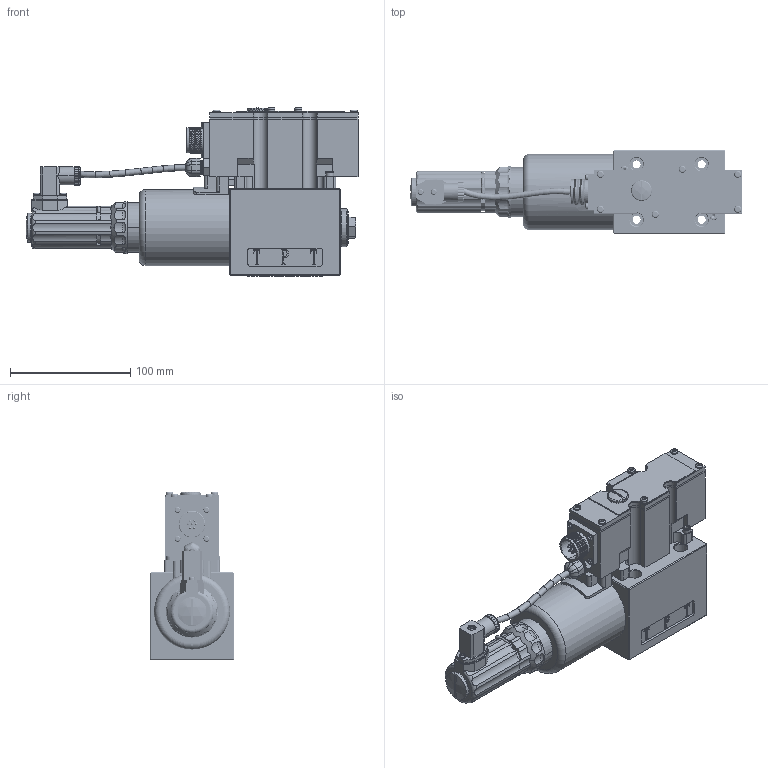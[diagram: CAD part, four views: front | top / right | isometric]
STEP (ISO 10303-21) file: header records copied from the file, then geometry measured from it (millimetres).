
FILE_DESCRIPTION(/* description */ (''),/* implementation_level */ '2;1');
FILE_NAME(/* name */ '4WREE10A-2XJ比例换向阀.prt.stp',/* time_stamp */ '2022-03-30T18:37:00+08:00',/* author */ (''),/* organization */ (''),/* preprocessor_version */ 'ST-DEVELOPER v16.7',/* originating_system */ 'SIEMENS PLM Software NX 12.0',/* authorisation */ '');
FILE_SCHEMA (('AUTOMOTIVE_DESIGN { 1 0 10303 214 3 1 1 1 }'));
Products named in the file (1): 4WREE10A-2XJ比例换向阀
Bounding box: 275.56 x 70 x 140.1 mm (x, y, z)
Volume: 1066975 mm3; surface area: 202817.5 mm2
Topology: 32 solids, 42 shells, 1629 faces, 4071 edges, 2573 vertices
Faces by surface type: plane 833, cylinder 506, bspline 105, torus 103, cone 60, sphere 17, extrusion 5
Full cylindrical faces by diameter (mm): 0.8 x1, 1.8 x4, 2 x1, 2.5 x2, 2.8 x26, 3.2 x56, 3.6 x10, 4 x2, 5 x4, 6 x1, 6.5 x2, 6.6 x4, 6.78 x2, 7 x2, 8 x1, 11 x4, 12 x1, 12.8 x1, 14.6 x1, 14.701 x3, 15.7 x5, 16 x1, 16.5 x2, 17 x2, 17.2 x1, 18.376 x3, 21.4 x1, 24 x2, 25 x4, 26 x1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
Entity records: 117166 total; most frequent: CARTESIAN_POINT 81062, ORIENTED_EDGE 7154, DIRECTION 6881, EDGE_CURVE 3577, AXIS2_PLACEMENT_3D 2437, VERTEX_POINT 2355, VECTOR 2007, LINE 2002
